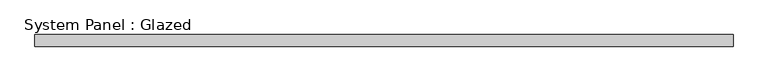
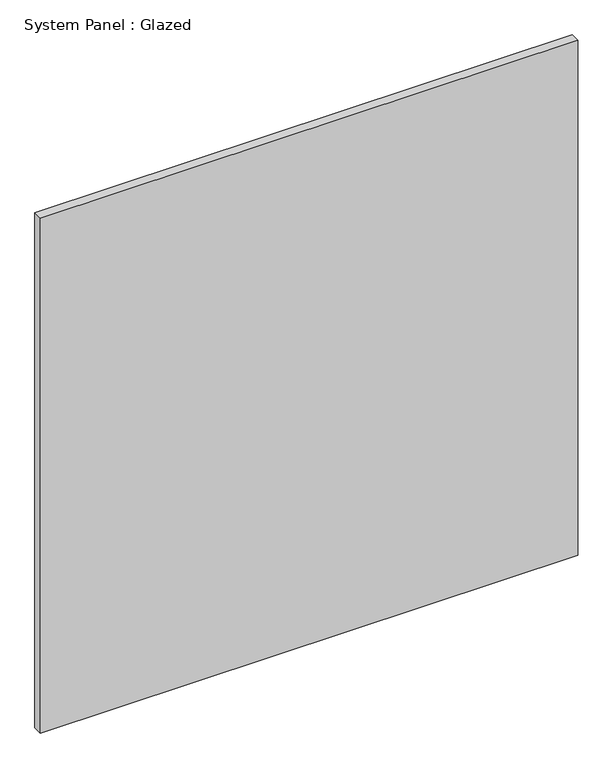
"""IFC4 building model written with IfcOpenShell, lengths in millimetres: plate geometry, System Panel : Glazed."""

from ifc_helpers import new_model, si_unit, origin, origin_with_axes, place, context, project, spatial, polyline, outline, extrude, source, transform, mapped, element, save


def system_panel_glazed_1c4746fc(model_context):
    return source(origin(), model_context, "Body", "SweptSolid", [
        extrude(outline(polyline([(733.4250002, 19.05), (-733.4250002, 19.05), (-733.4250002, 44.45), (733.4250002, 44.45), (733.4250002, 19.05)])), origin_with_axes(), (0.0, 0.0, 1.0), 1485.9),
    ])


if __name__ == "__main__":
    model = new_model("IFC4")
    model_context = context("Model", 3, world=origin())
    ifc_project = project(units=[si_unit("LENGTHUNIT", "METRE", prefix="MILLI")], contexts=[model_context])
    site = spatial("IfcSite", under=ifc_project)
    building = spatial("IfcBuilding", under=site)
    placement = place(None, origin())
    system_panel_glazed_shape = system_panel_glazed_1c4746fc(model_context)
    element("IfcPlate", 1, ObjectType="System Panel : Glazed", at=placement, inside=building, context=model_context, shape_type="MappedRepresentation", body=[
        mapped(system_panel_glazed_shape, transform((0.0, 0.0, 0.0), x_axis=(1.0, 0.0, 0.0), y_axis=(0.0, 1.0, 0.0), z_axis=(0.0, 0.0, 1.0))),
    ])
    save(model, "model.ifc")
